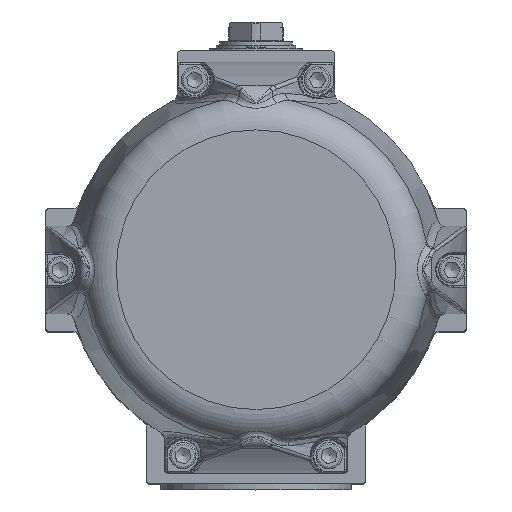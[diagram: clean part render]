
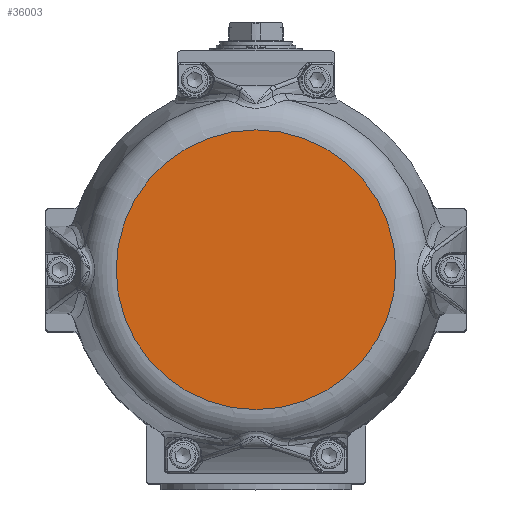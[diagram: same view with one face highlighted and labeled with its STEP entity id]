
A CAD part, top view. The second image highlights one B-rep face of the part: STEP entity #36003.
In plain terms, the highlighted planar face has unit normal (0, 0, 1).
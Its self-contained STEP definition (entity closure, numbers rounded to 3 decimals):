
#2918=FACE_OUTER_BOUND('',#4963,.T.);
#4963=EDGE_LOOP('',(#28332));
#6865=CIRCLE('',#38878,95.678);
#14781=VERTEX_POINT('',#70866);
#19320=EDGE_CURVE('',#14781,#14781,#6865,.T.);
#28332=ORIENTED_EDGE('',*,*,#19320,.F.);
#32553=PLANE('',#39057);
#36003=ADVANCED_FACE('',(#2918),#32553,.T.);
#38878=AXIS2_PLACEMENT_3D('',#70868,#45326,#45327);
#39057=AXIS2_PLACEMENT_3D('',#74005,#45745,#45746);
#45326=DIRECTION('center_axis',(0.,0.,
-1.));
#45327=DIRECTION('ref_axis',(-1.,0.,0.));
#45745=DIRECTION('center_axis',(0.,0.,
1.));
#45746=DIRECTION('ref_axis',(0.,-1.,0.));
#70866=CARTESIAN_POINT('',(0.,-95.678,324.5));
#70868=CARTESIAN_POINT('Origin',(0.,0.,
324.5));
#74005=CARTESIAN_POINT('Origin',(-47.839,0.,
324.5));
